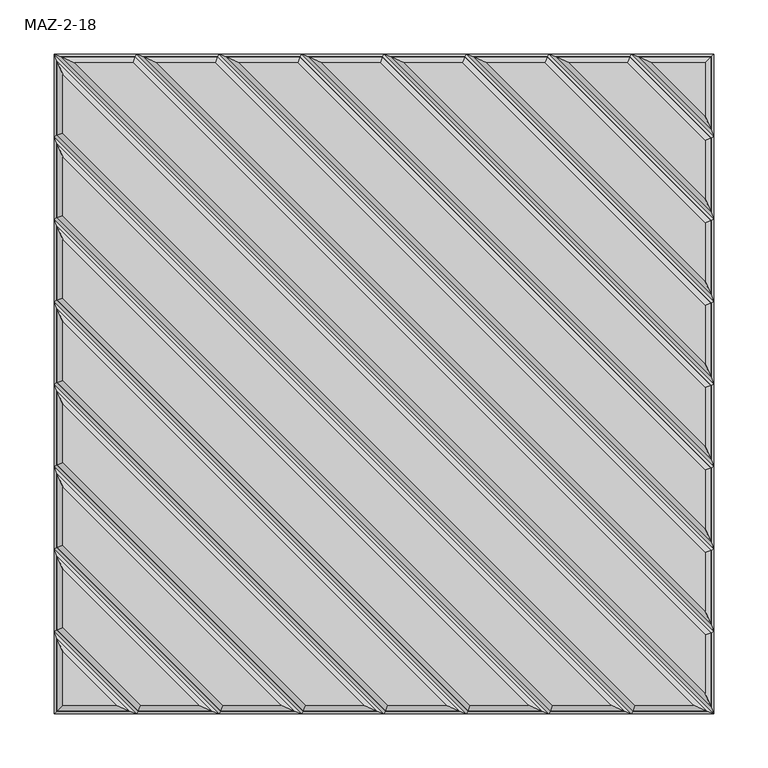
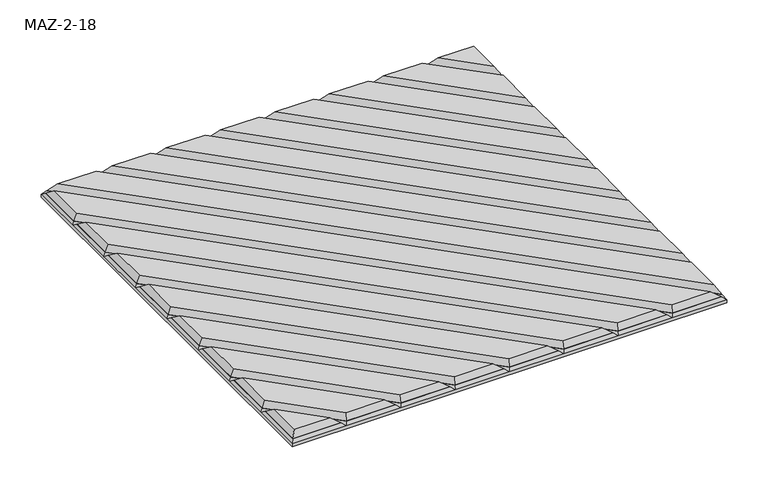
"""IFC4 building model written with IfcOpenShell, lengths in millimetres: proxy geometry, Turf_Wall Tile_Maze : MAZ-2-18."""

from ifc_helpers import new_model, si_unit, origin, place, context, project, spatial, faceted_brep, source, transform, mapped, element, save


def maz_2_18_ea886329(model_context):
    return source(origin(), model_context, "Body", "Brep", [
        faceted_brep([(-304.8, 304.8, 6.35), (304.8, 304.8, 6.35), (304.8, -304.8, 6.35), (-304.8, -304.8, 6.35), (-304.8, 304.8, 10.85), (-304.8, -304.8, 10.85), (-304.8, -228.6, 10.85), (-304.8, -152.4, 10.85), (-304.8, -76.2, 10.85), (-304.8, 0.0, 10.85), (-304.8, 76.2, 10.85), (-304.8, 152.4, 10.85), (-304.8, 228.6, 10.85), (-304.8, 278.8595745, 10.85), (304.8, 304.8, 10.85), (-228.6, 304.8, 10.85), (-152.4, 304.8, 10.85), (-76.2, 304.8, 10.85), (0.0, 304.8, 10.85), (76.2, 304.8, 10.85), (152.4, 304.8, 10.85), (228.6, 304.8, 10.85), (304.8, -304.8, 10.85), (304.8, 228.6, 10.85), (304.8, 152.4, 10.85), (304.8, 76.2, 10.85), (304.8, 0.0, 10.85), (304.8, -76.2, 10.85), (304.8, -152.4, 10.85), (304.8, -228.6, 10.85), (228.6, -304.8, 10.85), (152.4, -304.8, 10.85), (76.2, -304.8, 10.85), (0.0, -304.8, 10.85), (-76.2, -304.8, 10.85), (-152.4, -304.8, 10.85), (-228.6, -304.8, 10.85), (302.2019238, -298.5276892, 15.35), (-298.5276892, 302.2019238, 15.35), (-302.2019238, 298.5276892, 15.35), (298.5276892, -302.2019238, 15.35), (-75.1238416, -302.2019238, 15.35), (-302.2019238, -75.1238416, 15.35), (-302.2019238, -82.4723108, 15.35), (-82.4723108, -302.2019238, 15.35), (1.0761584, -302.2019238, 15.35), (-302.2019238, 1.0761584, 15.35), (-302.2019238, -6.2723108, 15.35), (-6.2723108, -302.2019238, 15.35), (229.6761584, -302.2019238, 15.35), (-302.2019238, 229.6761584, 15.35), (-302.2019238, 222.3276892, 15.35), (222.3276892, -302.2019238, 15.35), (-302.2019238, 278.8595745, 15.35), (153.4761584, -302.2019238, 15.35), (-302.2019238, 153.4761584, 15.35), (-302.2019238, 146.1276892, 15.35), (146.1276892, -302.2019238, 15.35), (77.2761584, -302.2019238, 15.35), (-302.2019238, 77.2761584, 15.35), (-302.2019238, 69.9276892, 15.35), (69.9276892, -302.2019238, 15.35), (-227.5238416, -302.2019238, 15.35), (-302.2019238, -227.5238416, 15.35), (-302.2019238, -234.8723108, 15.35), (-234.8723108, -302.2019238, 15.35), (-302.2019238, -302.2019238, 15.35), (-151.3238416, -302.2019238, 15.35), (-302.2019238, -151.3238416, 15.35), (-302.2019238, -158.6723108, 15.35), (-158.6723108, -302.2019238, 15.35), (302.2019238, 234.8723108, 15.35), (234.8723108, 302.2019238, 15.35), (227.5238416, 302.2019238, 15.35), (302.2019238, 227.5238416, 15.35), (302.2019238, 302.2019238, 15.35), (302.2019238, 158.6723108, 15.35), (158.6723108, 302.2019238, 15.35), (151.3238416, 302.2019238, 15.35), (302.2019238, 151.3238416, 15.35), (302.2019238, 82.4723108, 15.35), (82.4723108, 302.2019238, 15.35), (75.1238416, 302.2019238, 15.35), (302.2019238, 75.1238416, 15.35), (302.2019238, 6.2723108, 15.35), (6.2723108, 302.2019238, 15.35), (-1.0761584, 302.2019238, 15.35), (302.2019238, -1.0761584, 15.35), (302.2019238, -69.9276892, 15.35), (-69.9276892, 302.2019238, 15.35), (-77.2761584, 302.2019238, 15.35), (302.2019238, -77.2761584, 15.35), (302.2019238, -146.1276892, 15.35), (-146.1276892, 302.2019238, 15.35), (-153.4761584, 302.2019238, 15.35), (302.2019238, -153.4761584, 15.35), (302.2019238, -222.3276892, 15.35), (-222.3276892, 302.2019238, 15.35), (-229.6761584, 302.2019238, 15.35), (302.2019238, -229.6761584, 15.35)], [[[0, 1, 2, 3]], [[4, 0, 3, 5, 6, 7, 8, 9, 10, 11, 12, 13]], [[14, 1, 0, 4, 15, 16, 17, 18, 19, 20, 21]], [[22, 2, 1, 14, 23, 24, 25, 26, 27, 28, 29]], [[5, 3, 2, 22, 30, 31, 32, 33, 34, 35, 36]], [[37, 38, 4, 22]], [[22, 4, 39, 40]], [[8, 34, 41, 42]], [[43, 44, 34, 8]], [[9, 33, 45, 46]], [[47, 48, 33, 9]], [[48, 47, 42, 41]], [[12, 30, 49, 50]], [[51, 52, 30, 12]], [[50, 49, 40, 39, 53]], [[11, 31, 54, 55]], [[56, 57, 31, 11]], [[55, 54, 52, 51]], [[10, 32, 58, 59]], [[60, 61, 32, 10]], [[61, 60, 46, 45]], [[59, 58, 57, 56]], [[6, 36, 62, 63]], [[64, 65, 36, 6]], [[65, 64, 66]], [[7, 35, 67, 68]], [[69, 70, 35, 7]], [[70, 69, 63, 62]], [[68, 67, 44, 43]], [[71, 72, 21, 23]], [[23, 21, 73, 74]], [[72, 71, 75]], [[76, 77, 20, 24]], [[24, 20, 78, 79]], [[77, 76, 74, 73]], [[80, 81, 19, 25]], [[25, 19, 82, 83]], [[81, 80, 79, 78]], [[84, 85, 18, 26]], [[26, 18, 86, 87]], [[85, 84, 83, 82]], [[88, 89, 17, 27]], [[27, 17, 90, 91]], [[89, 88, 87, 86]], [[92, 93, 16, 28]], [[28, 16, 94, 95]], [[93, 92, 91, 90]], [[96, 97, 15, 29]], [[29, 15, 98, 99]], [[99, 98, 38, 37]], [[97, 96, 95, 94]], [[39, 4, 13, 12, 50, 53]], [[47, 9, 8, 42]], [[51, 12, 11, 55]], [[60, 10, 9, 46]], [[56, 11, 10, 59]], [[64, 6, 5, 66]], [[69, 7, 6, 63]], [[43, 8, 7, 68]], [[66, 5, 36, 65]], [[41, 34, 33, 48]], [[54, 31, 30, 52]], [[58, 32, 31, 57]], [[45, 33, 32, 61]], [[22, 40, 49, 30]], [[67, 35, 34, 44]], [[62, 36, 35, 70]], [[37, 22, 29, 99]], [[71, 23, 14, 75]], [[76, 24, 23, 74]], [[80, 25, 24, 79]], [[84, 26, 25, 83]], [[88, 27, 26, 87]], [[92, 28, 27, 91]], [[96, 29, 28, 95]], [[75, 14, 21, 72]], [[4, 38, 98, 15]], [[73, 21, 20, 77]], [[78, 20, 19, 81]], [[82, 19, 18, 85]], [[86, 18, 17, 89]], [[90, 17, 16, 93]], [[94, 16, 15, 97]]]),
        faceted_brep([(247.4169325, 297.0057714, 24.35), (297.0057714, 247.4169325, 24.35), (297.0057714, 297.0057714, 24.35), (302.2019238, 234.8723108, 15.35), (234.8723108, 302.2019238, 15.35), (302.2019238, 302.2019238, 15.35)], [[[0, 1, 2]], [[3, 4, 5]], [[0, 4, 3, 1]], [[5, 2, 1, 3]], [[2, 5, 4, 0]]]),
        faceted_brep([(302.2019238, 227.5238416, 15.35), (227.5238416, 302.2019238, 15.35), (225.3715248, 297.0057714, 24.35), (297.0057714, 225.3715248, 24.35), (171.2169325, 297.0057714, 24.35), (297.0057714, 171.2169325, 24.35), (302.2019238, 158.6723108, 15.35), (158.6723108, 302.2019238, 15.35)], [[[0, 1, 2, 3]], [[4, 5, 3, 2]], [[6, 7, 1, 0]], [[4, 7, 6, 5]], [[0, 3, 5, 6]], [[2, 1, 7, 4]]]),
        faceted_brep([(302.2019238, 151.3238416, 15.35), (151.3238416, 302.2019238, 15.35), (149.1715248, 297.0057714, 24.35), (297.0057714, 149.1715248, 24.35), (95.0169325, 297.0057714, 24.35), (297.0057714, 95.0169325, 24.35), (302.2019238, 82.4723108, 15.35), (82.4723108, 302.2019238, 15.35)], [[[0, 1, 2, 3]], [[4, 5, 3, 2]], [[6, 7, 1, 0]], [[4, 7, 6, 5]], [[0, 3, 5, 6]], [[2, 1, 7, 4]]]),
        faceted_brep([(302.2019238, 75.1238416, 15.35), (75.1238416, 302.2019238, 15.35), (72.9715248, 297.0057714, 24.35), (297.0057714, 72.9715248, 24.35), (18.8169325, 297.0057714, 24.35), (297.0057714, 18.8169325, 24.35), (302.2019238, 6.2723108, 15.35), (6.2723108, 302.2019238, 15.35)], [[[0, 1, 2, 3]], [[4, 5, 3, 2]], [[6, 7, 1, 0]], [[4, 7, 6, 5]], [[0, 3, 5, 6]], [[2, 1, 7, 4]]]),
        faceted_brep([(302.2019238, -1.0761584, 15.35), (-1.0761584, 302.2019238, 15.35), (-3.2284752, 297.0057714, 24.35), (297.0057714, -3.2284752, 24.35), (-57.3830675, 297.0057714, 24.35), (297.0057714, -57.3830675, 24.35), (302.2019238, -69.9276892, 15.35), (-69.9276892, 302.2019238, 15.35)], [[[0, 1, 2, 3]], [[4, 5, 3, 2]], [[6, 7, 1, 0]], [[4, 7, 6, 5]], [[0, 3, 5, 6]], [[2, 1, 7, 4]]]),
        faceted_brep([(302.2019238, -77.2761584, 15.35), (-77.2761584, 302.2019238, 15.35), (-79.4284752, 297.0057714, 24.35), (297.0057714, -79.4284752, 24.35), (-133.5830675, 297.0057714, 24.35), (297.0057714, -133.5830675, 24.35), (302.2019238, -146.1276892, 15.35), (-146.1276892, 302.2019238, 15.35)], [[[0, 1, 2, 3]], [[4, 5, 3, 2]], [[6, 7, 1, 0]], [[4, 7, 6, 5]], [[0, 3, 5, 6]], [[2, 1, 7, 4]]]),
        faceted_brep([(302.2019238, -153.4761584, 15.35), (-153.4761584, 302.2019238, 15.35), (-155.6284752, 297.0057714, 24.35), (297.0057714, -155.6284752, 24.35), (-209.7830675, 297.0057714, 24.35), (297.0057714, -209.7830675, 24.35), (302.2019238, -222.3276892, 15.35), (-222.3276892, 302.2019238, 15.35)], [[[0, 1, 2, 3]], [[4, 5, 3, 2]], [[6, 7, 1, 0]], [[4, 7, 6, 5]], [[0, 3, 5, 6]], [[2, 1, 7, 4]]]),
        faceted_brep([(-285.9830675, 297.0057714, 24.35), (-298.5276892, 302.2019238, 15.35), (302.2019238, -298.5276892, 15.35), (297.0057714, -285.9830675, 24.35), (297.0057714, -231.8284752, 24.35), (-231.8284752, 297.0057714, 24.35), (-229.6761584, 302.2019238, 15.35), (302.2019238, -229.6761584, 15.35)], [[[0, 1, 2, 3]], [[4, 5, 0, 3]], [[6, 7, 2, 1]], [[7, 6, 5, 4]], [[3, 2, 7, 4]], [[1, 0, 5, 6]]]),
        faceted_brep([(-247.4169325, -297.0057714, 24.35), (-297.0057714, -247.4169325, 24.35), (-297.0057714, -297.0057714, 24.35), (-302.2019238, -234.8723108, 15.35), (-234.8723108, -302.2019238, 15.35), (-302.2019238, -302.2019238, 15.35)], [[[0, 1, 2]], [[3, 4, 5]], [[1, 0, 4, 3]], [[5, 2, 1, 3]], [[2, 5, 4, 0]]]),
        faceted_brep([(-297.0057714, -225.3715248, 24.35), (-302.2019238, -227.5238416, 15.35), (-227.5238416, -302.2019238, 15.35), (-225.3715248, -297.0057714, 24.35), (-171.2169325, -297.0057714, 24.35), (-297.0057714, -171.2169325, 24.35), (-302.2019238, -158.6723108, 15.35), (-158.6723108, -302.2019238, 15.35)], [[[0, 1, 2, 3]], [[4, 5, 0, 3]], [[6, 7, 2, 1]], [[5, 4, 7, 6]], [[1, 0, 5, 6]], [[3, 2, 7, 4]]]),
        faceted_brep([(-297.0057714, -95.0169325, 24.35), (-95.0169325, -297.0057714, 24.35), (-82.4723108, -302.2019238, 15.35), (-302.2019238, -82.4723108, 15.35), (-297.0057714, -149.1715248, 24.35), (-149.1715248, -297.0057714, 24.35), (-151.3238416, -302.2019238, 15.35), (-302.2019238, -151.3238416, 15.35)], [[[0, 1, 2, 3]], [[4, 5, 1, 0]], [[6, 7, 3, 2]], [[4, 7, 6, 5]], [[0, 3, 7, 4]], [[2, 1, 5, 6]]]),
        faceted_brep([(-297.0057714, -72.9715248, 24.35), (-302.2019238, -75.1238416, 15.35), (-75.1238416, -302.2019238, 15.35), (-72.9715248, -297.0057714, 24.35), (-18.8169325, -297.0057714, 24.35), (-297.0057714, -18.8169325, 24.35), (-302.2019238, -6.2723108, 15.35), (-6.2723108, -302.2019238, 15.35)], [[[0, 1, 2, 3]], [[4, 5, 0, 3]], [[6, 7, 2, 1]], [[5, 4, 7, 6]], [[1, 0, 5, 6]], [[3, 2, 7, 4]]]),
        faceted_brep([(-297.0057714, 209.7830675, 24.35), (209.7830675, -297.0057714, 24.35), (222.3276892, -302.2019238, 15.35), (-302.2019238, 222.3276892, 15.35), (-297.0057714, 155.6284752, 24.35), (155.6284752, -297.0057714, 24.35), (153.4761584, -302.2019238, 15.35), (-302.2019238, 153.4761584, 15.35)], [[[0, 1, 2, 3]], [[4, 5, 1, 0]], [[6, 7, 3, 2]], [[4, 7, 6, 5]], [[0, 3, 7, 4]], [[2, 1, 5, 6]]]),
        faceted_brep([(-297.0057714, 133.5830675, 24.35), (133.5830675, -297.0057714, 24.35), (146.1276892, -302.2019238, 15.35), (-302.2019238, 146.1276892, 15.35), (-297.0057714, 79.4284752, 24.35), (79.4284752, -297.0057714, 24.35), (77.2761584, -302.2019238, 15.35), (-302.2019238, 77.2761584, 15.35)], [[[0, 1, 2, 3]], [[4, 5, 1, 0]], [[6, 7, 3, 2]], [[4, 7, 6, 5]], [[0, 3, 7, 4]], [[2, 1, 5, 6]]]),
        faceted_brep([(-297.0057714, 3.2284752, 24.35), (-302.2019238, 1.0761584, 15.35), (1.0761584, -302.2019238, 15.35), (3.2284752, -297.0057714, 24.35), (57.3830675, -297.0057714, 24.35), (-297.0057714, 57.3830675, 24.35), (-302.2019238, 69.9276892, 15.35), (69.9276892, -302.2019238, 15.35)], [[[0, 1, 2, 3]], [[4, 5, 0, 3]], [[6, 7, 2, 1]], [[5, 4, 7, 6]], [[1, 0, 5, 6]], [[3, 2, 7, 4]]]),
        faceted_brep([(298.5276892, -302.2019238, 15.35), (-302.2019238, 298.5276892, 15.35), (-297.0057714, 285.9830675, 24.35), (285.9830675, -297.0057714, 24.35), (-297.0057714, 231.8284752, 24.35), (231.8284752, -297.0057714, 24.35), (-297.0057714, 278.8595745, 24.35), (229.6761584, -302.2019238, 15.35), (-302.2019238, 229.6761584, 15.35), (-302.2019238, 278.8595745, 15.35)], [[[0, 1, 2, 3]], [[4, 5, 3, 2, 6]], [[7, 8, 9, 1, 0]], [[4, 8, 7, 5]], [[2, 1, 9, 8, 4, 6]], [[0, 3, 5, 7]]]),
    ])


if __name__ == "__main__":
    model = new_model("IFC4")
    model_context = context("Model", 3, world=origin())
    ifc_project = project(units=[si_unit("LENGTHUNIT", "METRE", prefix="MILLI")], contexts=[model_context])
    site = spatial("IfcSite", under=ifc_project)
    building = spatial("IfcBuilding", under=site)
    placement = place(None, origin())
    maz_2_18_shape = maz_2_18_ea886329(model_context)
    element("IfcBuildingElementProxy", 1, Name="Turf_Wall Tile_Maze : MAZ-2-18", ObjectType="Turf_Wall Tile_Maze : MAZ-2-18", at=placement, inside=building, context=model_context, shape_type="MappedRepresentation", body=[
        mapped(maz_2_18_shape, transform((0.0, 0.0, 0.0), x_axis=(1.0, 0.0, 0.0), y_axis=(0.0, 1.0, 0.0), z_axis=(0.0, 0.0, 1.0))),
    ])
    save(model, "model.ifc")
